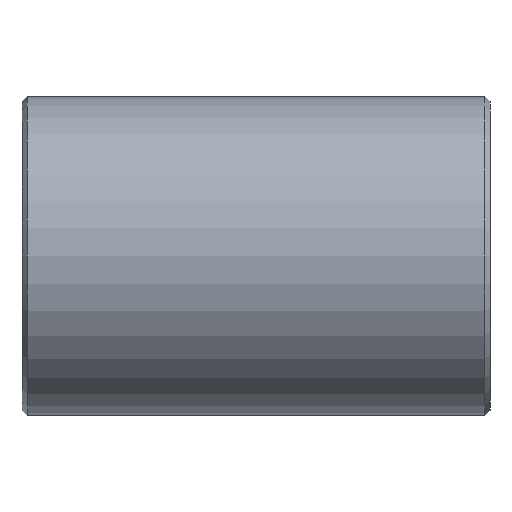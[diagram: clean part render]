
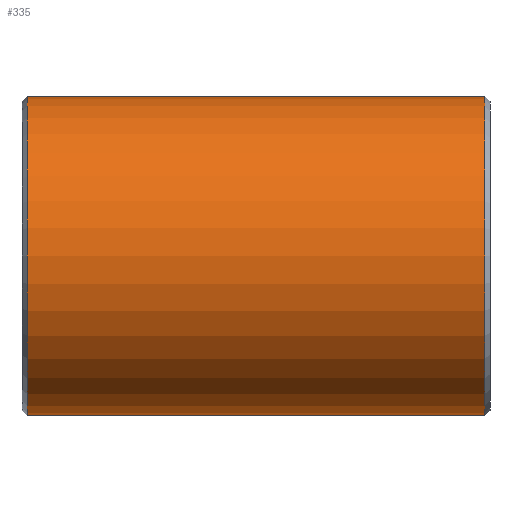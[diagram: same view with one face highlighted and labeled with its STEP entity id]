
A CAD part, left-side view. The second image highlights one B-rep face of the part: STEP entity #335.
In plain terms, the highlighted cylindrical face has radius 3 mm (diameter 6 mm), a partial arc.
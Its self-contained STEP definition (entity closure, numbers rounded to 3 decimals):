
#14 = EDGE_CURVE ( 'NONE', #95, #221, #400, .T. ) ;
#67 = EDGE_CURVE ( 'NONE', #93, #117, #476, .T. ) ;
#93 = VERTEX_POINT ( 'NONE', #368 ) ;
#95 = VERTEX_POINT ( 'NONE', #159 ) ;
#117 = VERTEX_POINT ( 'NONE', #600 ) ;
#159 = CARTESIAN_POINT ( 'NONE',  ( 0., 8.7, -3. ) ) ;
#221 = VERTEX_POINT ( 'NONE', #704 ) ;
#237 = ORIENTED_EDGE ( 'NONE', *, *, #67, .F. ) ;
#239 = EDGE_LOOP ( 'NONE', ( #237, #340, #328, #243 ) ) ;
#243 = ORIENTED_EDGE ( 'NONE', *, *, #337, .T. ) ;
#328 = ORIENTED_EDGE ( 'NONE', *, *, #14, .T. ) ;
#335 = ADVANCED_FACE ( 'NONE', ( #960 ), #899, .T. ) ;
#336 = EDGE_CURVE ( 'NONE', #93, #95, #898, .T. ) ;
#337 = EDGE_CURVE ( 'NONE', #221, #117, #915, .T. ) ;
#340 = ORIENTED_EDGE ( 'NONE', *, *, #336, .T. ) ;
#355 = DIRECTION ( 'NONE',  ( 0., -1., 0. ) ) ;
#356 = VECTOR ( 'NONE', #355, 1000. ) ;
#368 = CARTESIAN_POINT ( 'NONE',  ( 0., 8.7, 3. ) ) ;
#400 = LINE ( 'NONE', #402, #356 ) ;
#402 = CARTESIAN_POINT ( 'NONE',  ( 0., 0., -3. ) ) ;
#466 = DIRECTION ( 'NONE',  ( 0., -1., 0. ) ) ;
#467 = VECTOR ( 'NONE', #466, 1000. ) ;
#475 = CARTESIAN_POINT ( 'NONE',  ( 0., 0., 3. ) ) ;
#476 = LINE ( 'NONE', #475, #467 ) ;
#600 = CARTESIAN_POINT ( 'NONE',  ( 0., 0.1, 3. ) ) ;
#704 = CARTESIAN_POINT ( 'NONE',  ( 0., 0.1, -3. ) ) ;
#894 = AXIS2_PLACEMENT_3D ( 'NONE', #910, #909, #907 ) ;
#897 = CARTESIAN_POINT ( 'NONE',  ( 0., 8.7, 0. ) ) ;
#898 = CIRCLE ( 'NONE', #914, 3. ) ;
#899 = CYLINDRICAL_SURFACE ( 'NONE', #894, 3. ) ;
#903 = DIRECTION ( 'NONE',  ( 0., 0., 1. ) ) ;
#904 = DIRECTION ( 'NONE',  ( 0., -1., 0. ) ) ;
#906 = AXIS2_PLACEMENT_3D ( 'NONE', #935, #934, #933 ) ;
#907 = DIRECTION ( 'NONE',  ( 0., 0., -1. ) ) ;
#909 = DIRECTION ( 'NONE',  ( 0., -1., 0. ) ) ;
#910 = CARTESIAN_POINT ( 'NONE',  ( 0., 0., 0. ) ) ;
#914 = AXIS2_PLACEMENT_3D ( 'NONE', #897, #904, #903 ) ;
#915 = CIRCLE ( 'NONE', #906, 3. ) ;
#933 = DIRECTION ( 'NONE',  ( 0., 0., -1. ) ) ;
#934 = DIRECTION ( 'NONE',  ( 0., 1., 0. ) ) ;
#935 = CARTESIAN_POINT ( 'NONE',  ( 0., 0.1, 0. ) ) ;
#960 = FACE_OUTER_BOUND ( 'NONE', #239, .T. ) ;
